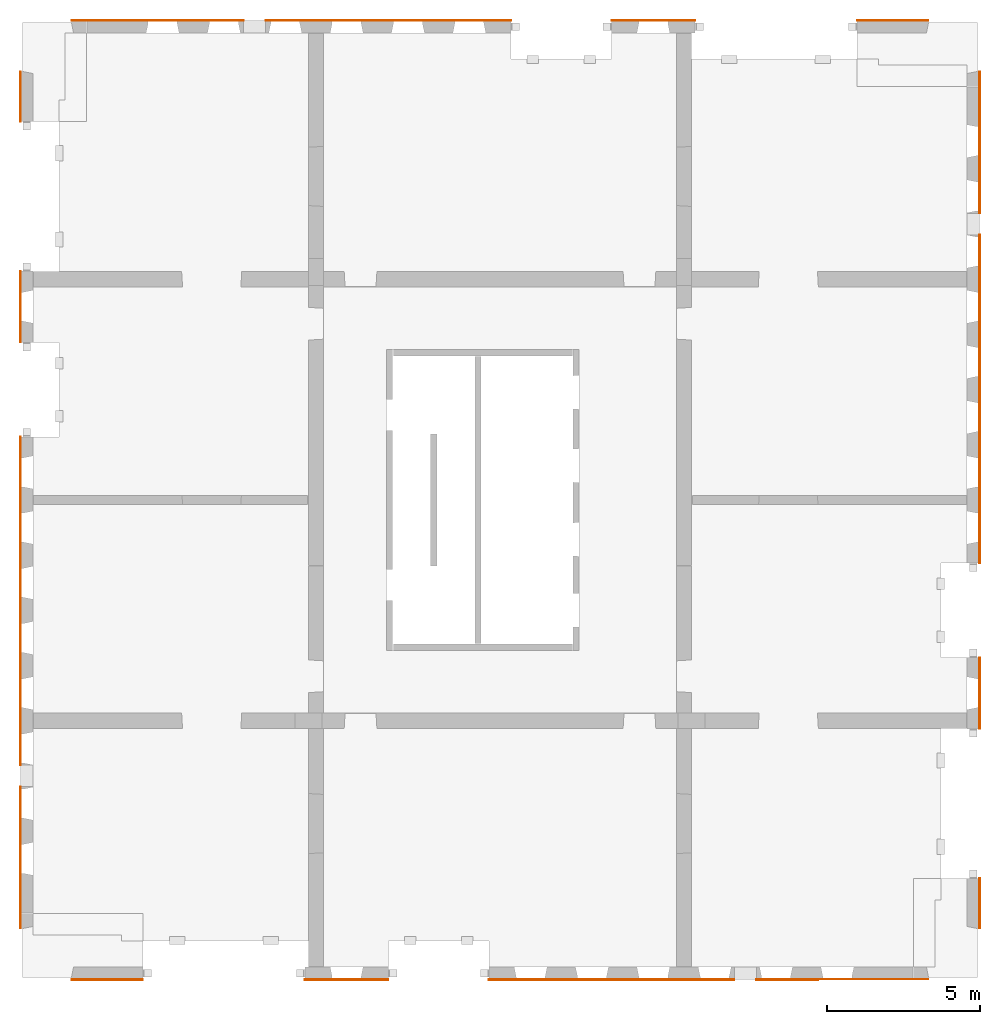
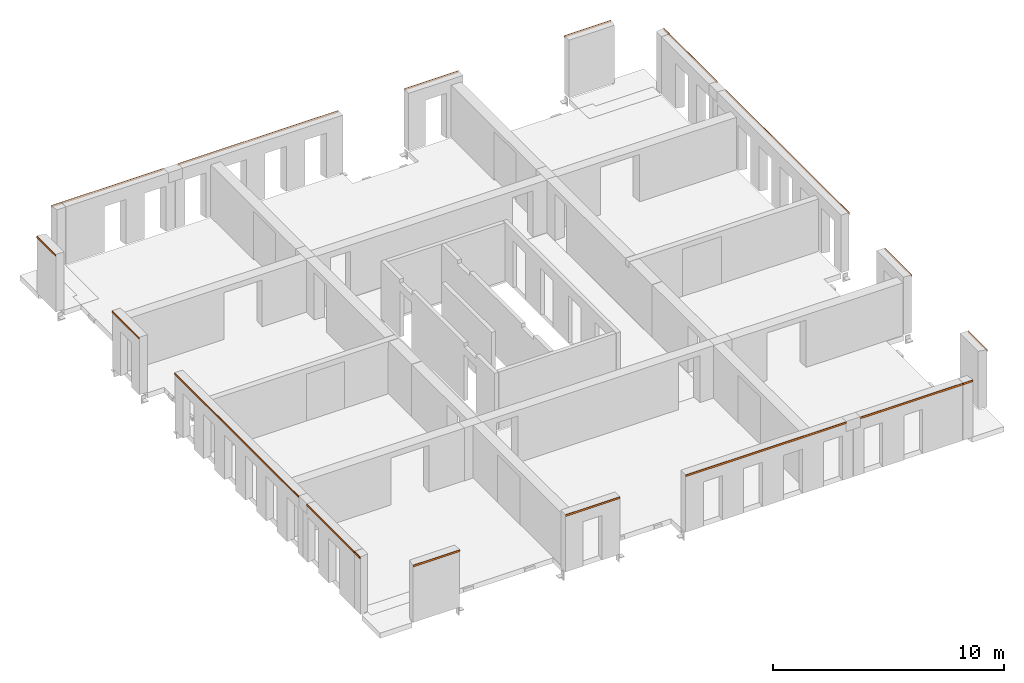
# One storey, part 5 of 5: 20 proxies.
"""IFC2X3 building model written with IfcOpenShell, lengths in millimetres."""

from ifc_helpers import new_model, entity, si_unit, converted_unit, derived_unit, direction, frame, frame_2d, origin, origin_2d_with_axis, place, context, subcontext, project, spatial, rectangle, extrude, element, save


model = new_model("IFC2X3")

# Units and contexts
model_context = context("Model", 3, precision=0.01, world=origin(), true_north=direction((6.12303176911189e-17, 1.0)))
body_context = subcontext(model_context, "Body", "Model", "MODEL_VIEW")
ifc_project = project(units=[si_unit("LENGTHUNIT", "METRE", prefix="MILLI"), si_unit("AREAUNIT", "SQUARE_METRE"), si_unit("VOLUMEUNIT", "CUBIC_METRE"), converted_unit("PLANEANGLEUNIT", "DEGREE", entity("IfcRatioMeasure", 0.0174532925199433), si_unit("PLANEANGLEUNIT", "RADIAN"), dimensions=[0, 0, 0, 0, 0, 0, 0]), si_unit("MASSUNIT", "GRAM", prefix="KILO"), derived_unit("MASSDENSITYUNIT", [(si_unit("MASSUNIT", "GRAM", prefix="KILO"), 1), (si_unit("LENGTHUNIT", "METRE"), -3)]), si_unit("TIMEUNIT", "SECOND"), si_unit("FREQUENCYUNIT", "HERTZ"), si_unit("THERMODYNAMICTEMPERATUREUNIT", "DEGREE_CELSIUS"), derived_unit("THERMALTRANSMITTANCEUNIT", [(si_unit("MASSUNIT", "GRAM", prefix="KILO"), 1), (si_unit("THERMODYNAMICTEMPERATUREUNIT", "KELVIN"), -1), (si_unit("TIMEUNIT", "SECOND"), -3)]), derived_unit("VOLUMETRICFLOWRATEUNIT", [(si_unit("LENGTHUNIT", "METRE"), 3), (si_unit("TIMEUNIT", "SECOND"), -1)]), si_unit("ELECTRICCURRENTUNIT", "AMPERE"), si_unit("ELECTRICVOLTAGEUNIT", "VOLT"), si_unit("POWERUNIT", "WATT"), si_unit("FORCEUNIT", "NEWTON", prefix="KILO"), si_unit("ILLUMINANCEUNIT", "LUX"), si_unit("LUMINOUSFLUXUNIT", "LUMEN"), si_unit("LUMINOUSINTENSITYUNIT", "CANDELA"), derived_unit("USERDEFINED", [(si_unit("MASSUNIT", "GRAM", prefix="KILO"), -1), (si_unit("LENGTHUNIT", "METRE"), -2), (si_unit("TIMEUNIT", "SECOND"), 3), (si_unit("LUMINOUSFLUXUNIT", "LUMEN"), 1)]), derived_unit("LINEARVELOCITYUNIT", [(si_unit("LENGTHUNIT", "METRE"), 1), (si_unit("TIMEUNIT", "SECOND"), -1)]), si_unit("PRESSUREUNIT", "PASCAL"), derived_unit("USERDEFINED", [(si_unit("LENGTHUNIT", "METRE"), -2), (si_unit("MASSUNIT", "GRAM", prefix="KILO"), 1), (si_unit("TIMEUNIT", "SECOND"), -2)])], contexts=[model_context])

# Site, building, storey
site_placement = place(None, origin())
site = spatial("IfcSite", under=ifc_project, at=site_placement, Name="Default", CompositionType="ELEMENT")
building_placement = place(site_placement, origin())
building = spatial("IfcBuilding", under=site, at=building_placement, Name="niet gebruiken", CompositionType="ELEMENT")
storey_placement = place(building_placement, frame((0.0, 0.0, 24120.0)))
storey = spatial("IfcBuildingStorey", under=building, at=storey_placement, Name="07 zevende verdieping", CompositionType="ELEMENT", Elevation=24120.0)

# Proxies
proxy_1_placement = place(storey_placement, origin())
element("IfcBuildingElementProxy", 1, at=proxy_1_placement, inside=storey, context=body_context, shape_type="SweptSolid", body=[
    extrude(rectangle(XDim=4115.00000000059, YDim=19.9999999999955, at=frame_2d((-2.27373675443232e-13, -8.66329230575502e-12), x_axis=(1.0, 0.0))), frame((126110.0, 6097.49999999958, 2890.0), z_axis=(0.0, 0.0, 1.0), x_axis=(0.0, 1.0, 0.0)), (0.0, 0.0, 1.0), 99.9999999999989),
])
proxy_2_placement = place(storey_placement, origin())
element("IfcBuildingElementProxy", 2, at=proxy_2_placement, inside=storey, context=body_context, shape_type="SweptSolid", body=[
    extrude(rectangle(XDim=2319.99999999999, YDim=19.9999999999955, at=frame_2d((0.0, 1.73256964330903e-11), x_axis=(1.0, 0.0))), frame((157390.0, 11200.0, 2890.0), z_axis=(0.0, 0.0, 1.0), x_axis=(0.0, -1.0, 0.0)), (0.0, 0.0, 1.0), 99.9999999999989),
])
proxy_3_placement = place(storey_placement, origin())
element("IfcBuildingElementProxy", 3, at=proxy_3_placement, inside=storey, context=body_context, shape_type="SweptSolid", body=[
    extrude(rectangle(XDim=2319.99999999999, YDim=19.9999999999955, at=frame_2d((-2.1600499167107e-12, 1.73256964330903e-11), x_axis=(1.0, 0.0))), frame((126110.0, 23800.0, 2890.0), z_axis=(0.0, 0.0, 1.0), x_axis=(0.0, 1.0, 0.0)), (0.0, 0.0, 1.0), 99.9999999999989),
])
proxy_4_placement = place(storey_placement, origin())
element("IfcBuildingElementProxy", 4, at=proxy_4_placement, inside=storey, context=body_context, shape_type="SweptSolid", body=[
    extrude(rectangle(XDim=2720.00000000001, YDim=20.0000000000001, at=frame_2d((0.0, -1.35891298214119e-13), x_axis=(1.0, 0.0))), frame((136750.0, 1860.0, 2890.0), z_axis=(0.0, 0.0, 1.0), x_axis=(-1.0, 0.0, 0.0)), (0.0, 0.0, 1.0), 99.9999999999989),
])
proxy_5_placement = place(storey_placement, origin())
element("IfcBuildingElementProxy", 5, at=proxy_5_placement, inside=storey, context=body_context, shape_type="SweptSolid", body=[
    extrude(rectangle(XDim=2720.00000000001, YDim=19.9999999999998, at=frame_2d((0.0, 2.16626716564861e-12), x_axis=(1.0, 0.0))), frame((146750.0, 33140.0, 2890.0)), (0.0, 0.0, 1.0), 99.9999999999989),
])
proxy_6_placement = place(storey_placement, origin())
element("IfcBuildingElementProxy", 6, at=proxy_6_placement, inside=storey, context=body_context, shape_type="SweptSolid", body=[
    extrude(rectangle(XDim=5104.99999999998, YDim=19.9999999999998, at=frame_2d((8.64019966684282e-12, 2.16626716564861e-12), x_axis=(1.0, 0.0))), frame((130842.5, 33140.0, 2890.0)), (0.0, 0.0, 1.0), 99.9999999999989),
])
proxy_7_placement = place(storey_placement, origin())
element("IfcBuildingElementProxy", 7, at=proxy_7_placement, inside=storey, context=body_context, shape_type="SweptSolid", body=[
    extrude(rectangle(XDim=490.000000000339, YDim=20.0000000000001, at=origin_2d_with_axis()), frame((155475.0, 1860.0, 2890.0), z_axis=(0.0, 0.0, 1.0), x_axis=(-1.0, 0.0, 0.0)), (0.0, 0.0, 1.0), 99.9999999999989),
])
proxy_8_placement = place(storey_placement, origin())
element("IfcBuildingElementProxy", 8, at=proxy_8_placement, inside=storey, context=body_context, shape_type="SweptSolid", body=[
    extrude(rectangle(XDim=1629.99999999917, YDim=19.9999999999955, at=origin_2d_with_axis()), frame((157390.0, 4345.0, 2890.0), z_axis=(0.0, 0.0, 1.0), x_axis=(0.0, -1.0, 0.0)), (0.0, 0.0, 1.0), 99.9999999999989),
])
proxy_9_placement = place(storey_placement, origin())
element("IfcBuildingElementProxy", 9, at=proxy_9_placement, inside=storey, context=body_context, shape_type="SweptSolid", body=[
    extrude(rectangle(XDim=490.000000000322, YDim=19.9999999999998, at=frame_2d((8.65441052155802e-12, -2.16626716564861e-12), x_axis=(1.0, 0.0))), frame((128025.0, 33140.0, 2890.0)), (0.0, 0.0, 1.0), 99.9999999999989),
])
proxy_10_placement = place(storey_placement, origin())
element("IfcBuildingElementProxy", 10, at=proxy_10_placement, inside=storey, context=body_context, shape_type="SweptSolid", body=[
    extrude(rectangle(XDim=1629.99999999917, YDim=19.9999999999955, at=frame_2d((0.0, 8.66329230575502e-12), x_axis=(1.0, 0.0))), frame((126110.0, 30655.0, 2890.0), z_axis=(0.0, 0.0, 1.0), x_axis=(0.0, 1.0, 0.0)), (0.0, 0.0, 1.0), 99.9999999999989),
])
proxy_11_placement = place(storey_placement, origin())
element("IfcBuildingElementProxy", 11, at=proxy_11_placement, inside=storey, context=body_context, shape_type="SweptSolid", body=[
    extrude(rectangle(XDim=2330.00000000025, YDim=20.0000000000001, at=frame_2d((-8.75388650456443e-12, 1.35891298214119e-13), x_axis=(1.0, 0.0))), frame((128945.0, 1860.0, 2890.0), z_axis=(0.0, 0.0, 1.0), x_axis=(-1.0, 0.0, 0.0)), (0.0, 0.0, 1.0), 99.9999999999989),
])
proxy_12_placement = place(storey_placement, origin())
element("IfcBuildingElementProxy", 12, at=proxy_12_placement, inside=storey, context=body_context, shape_type="SweptSolid", body=[
    extrude(rectangle(XDim=490.0, YDim=19.9999999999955, at=frame_2d((0.0, -8.66329230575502e-12), x_axis=(1.0, 0.0))), frame((126110.0, 3775.0, 2890.0), z_axis=(0.0, 0.0, 1.0), x_axis=(0.0, 1.0, 0.0)), (0.0, 0.0, 1.0), 99.9999999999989),
])
proxy_13_placement = place(storey_placement, origin())
element("IfcBuildingElementProxy", 13, at=proxy_13_placement, inside=storey, context=body_context, shape_type="SweptSolid", body=[
    extrude(rectangle(XDim=2330.00000000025, YDim=19.9999999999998, at=frame_2d((-8.64019966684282e-12, -2.16626716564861e-12), x_axis=(1.0, 0.0))), frame((154555.0, 33140.0, 2890.0)), (0.0, 0.0, 1.0), 99.9999999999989),
])
proxy_14_placement = place(storey_placement, origin())
element("IfcBuildingElementProxy", 14, at=proxy_14_placement, inside=storey, context=body_context, shape_type="SweptSolid", body=[
    extrude(rectangle(XDim=490.000000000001, YDim=19.9999999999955, at=frame_2d((-2.1600499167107e-12, 1.73256964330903e-11), x_axis=(1.0, 0.0))), frame((157390.0, 31225.0, 2890.0), z_axis=(0.0, 0.0, 1.0), x_axis=(0.0, -1.0, 0.0)), (0.0, 0.0, 1.0), 99.9999999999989),
])
proxy_15_placement = place(storey_placement, origin())
element("IfcBuildingElementProxy", 15, at=proxy_15_placement, inside=storey, context=body_context, shape_type="SweptSolid", body=[
    extrude(rectangle(XDim=10705.0000000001, YDim=19.9999999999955, at=frame_2d((1.36424205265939e-12, 8.66329230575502e-12), x_axis=(1.0, 0.0))), frame((126110.0, 14207.4999999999, 2890.0), z_axis=(0.0, 0.0, 1.0), x_axis=(0.0, 1.0, 0.0)), (0.0, 0.0, 1.0), 99.9999999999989),
])
proxy_16_placement = place(storey_placement, origin())
element("IfcBuildingElementProxy", 16, at=proxy_16_placement, inside=storey, context=body_context, shape_type="SweptSolid", body=[
    extrude(rectangle(XDim=8005.00000000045, YDim=19.9999999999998, at=origin_2d_with_axis()), frame((138107.5, 33140.0, 2890.0)), (0.0, 0.0, 1.0), 99.9999999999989),
])
proxy_17_placement = place(storey_placement, origin())
element("IfcBuildingElementProxy", 17, at=proxy_17_placement, inside=storey, context=body_context, shape_type="SweptSolid", body=[
    extrude(rectangle(XDim=5104.99999999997, YDim=20.0000000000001, at=frame_2d((0.0, 1.35891298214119e-13), x_axis=(1.0, 0.0))), frame((152657.5, 1860.0, 2890.0), z_axis=(0.0, 0.0, 1.0), x_axis=(-1.0, 0.0, 0.0)), (0.0, 0.0, 1.0), 99.9999999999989),
])
proxy_18_placement = place(storey_placement, origin())
element("IfcBuildingElementProxy", 18, at=proxy_18_placement, inside=storey, context=body_context, shape_type="SweptSolid", body=[
    extrude(rectangle(XDim=8005.00000000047, YDim=20.0000000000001, at=frame_2d((-8.64019966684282e-12, -1.35891298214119e-13), x_axis=(1.0, 0.0))), frame((145392.5, 1860.0, 2890.0), z_axis=(0.0, 0.0, 1.0), x_axis=(-1.0, 0.0, 0.0)), (0.0, 0.0, 1.0), 99.9999999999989),
])
proxy_19_placement = place(storey_placement, origin())
element("IfcBuildingElementProxy", 19, at=proxy_19_placement, inside=storey, context=body_context, shape_type="SweptSolid", body=[
    extrude(rectangle(XDim=4115.00000000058, YDim=19.9999999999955, at=frame_2d((0.0, 1.73256964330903e-11), x_axis=(1.0, 0.0))), frame((157390.0, 28902.5000000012, 2890.0), z_axis=(0.0, 0.0, 1.0), x_axis=(0.0, -1.0, 0.0)), (0.0, 0.0, 1.0), 99.9999999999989),
])
proxy_20_placement = place(storey_placement, origin())
element("IfcBuildingElementProxy", 20, at=proxy_20_placement, inside=storey, context=body_context, shape_type="SweptSolid", body=[
    extrude(rectangle(XDim=10705.0000000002, YDim=19.9999999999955, at=frame_2d((-2.27373675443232e-12, 0.0), x_axis=(1.0, 0.0))), frame((157390.0, 20792.5000000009, 2890.0), z_axis=(0.0, 0.0, 1.0), x_axis=(0.0, -1.0, 0.0)), (0.0, 0.0, 1.0), 99.9999999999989),
])

save(model, "model.ifc")
